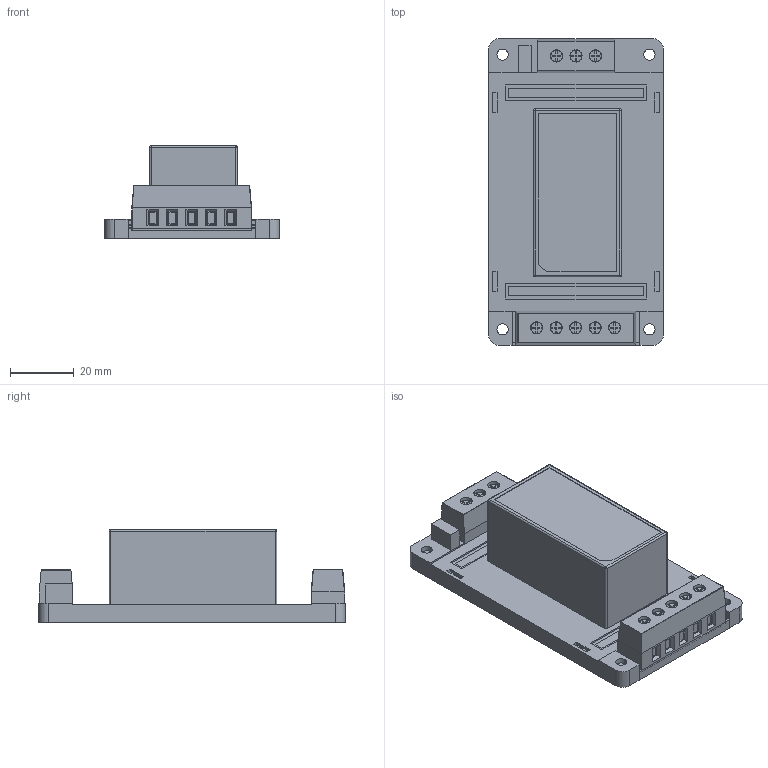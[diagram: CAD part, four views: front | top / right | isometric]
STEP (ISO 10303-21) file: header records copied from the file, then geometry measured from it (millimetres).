
FILE_DESCRIPTION((''),'2;1');
FILE_NAME('AFC-A2_ASM','2016-02-01T',('arch'),(''),'PRO/ENGINEER BY PARAMETRIC TECHNOLOGY CORPORATION, 2008380','PRO/ENGINEER BY PARAMETRIC TECHNOLOGY CORPORATION, 2008380','');
FILE_SCHEMA(('AUTOMOTIVE_DESIGN { 1 2 10303 214 0 1 1 1 }'));
Length unit declared in the file: millimetre
Products named in the file (29): PRODUCT_53866; PRODUCT_53849; PCB; EXTRUDE14; LPATTERN4_1_-44688; LPATTERN4_2_-44689; EXTRUDE5_2_-44693; PRODUCT_53764_ASM_ASM_ASM_ASM_A_ASM; EXTRUDE5_2_-44690; LPATTERN4_1_-44692; LPATTERN4_2_-44694; LPATTERN4_3_; LPATTERN4_4_; EXTRUDE7; PRODUCT_53747_ASM_ASM_ASM_ASM_A_ASM; ASM0001_ASM_ASM_ASM_ASM_ASM_ASM_ASM; MTC-A2_ASM_ASM_ASM_ASM_ASM_ASM__ASM; PRT0017; 96-A2_ASM_ASM_ASM_ASM_ASM_ASM_A_ASM; 96-A2_ASM_ASM_ASM_ASM_ASM_ASM_ASM; 96-A2_ASM_ASM_ASM_ASM_ASM_ASM; AFC20_1; AFC-A2_ASM_ASM_ASM_ASM_ASM; AFC-A2_ASM_ASM_ASM_ASM; AFC-A2_ASM_ASM_ASM; CU_1; AFC-A2_ASM_ASM; FCG; AFC-A2_ASM
Assembly tree (31 placements, depth 12):
  AFC-A2_ASM
    AFC-A2_ASM_ASM
      AFC-A2_ASM_ASM_ASM
        AFC-A2_ASM_ASM_ASM_ASM
          AFC-A2_ASM_ASM_ASM_ASM_ASM
            96-A2_ASM_ASM_ASM_ASM_ASM_ASM
              96-A2_ASM_ASM_ASM_ASM_ASM_ASM_ASM
                96-A2_ASM_ASM_ASM_ASM_ASM_ASM_A_ASM
                  MTC-A2_ASM_ASM_ASM_ASM_ASM_ASM__ASM
                  PRT0017
            AFC20_1
      CU_1  x3
    FCG  x2
Bounding box: 54.6 x 95.9 x 29 mm (x, y, z)
Volume: 61323.4 mm3; surface area: 45334.1 mm2
Topology: 20 solids, 23 shells, 862 faces, 2235 edges, 1447 vertices
Faces by surface type: plane 567, cylinder 197, extrusion 54, torus 16, sphere 16, cone 12
Entity records: 33015 total; most frequent: CARTESIAN_POINT 5625, ORIENTED_EDGE 4250, DIRECTION 4174, EDGE_CURVE 2127, VECTOR 1480, LINE 1426, VERTEX_POINT 1383, AXIS2_PLACEMENT_3D 1347
